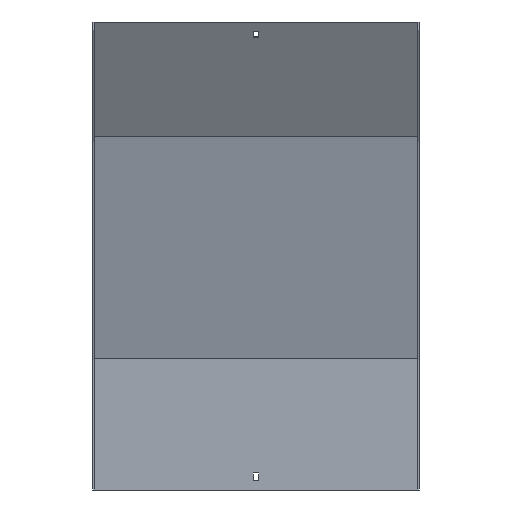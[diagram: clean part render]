
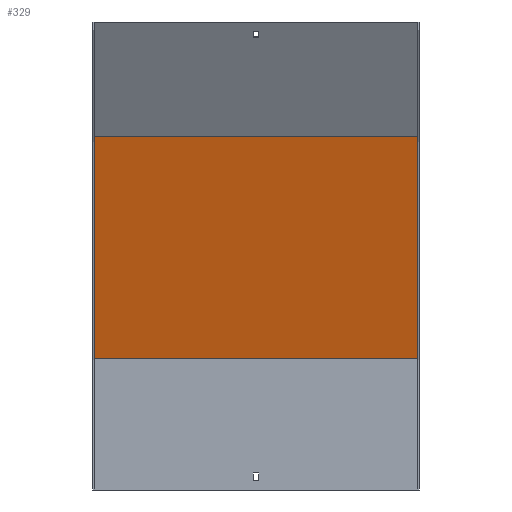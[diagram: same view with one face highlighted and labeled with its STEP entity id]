
A CAD part, front view. The second image highlights one B-rep face of the part: STEP entity #329.
In plain terms, the highlighted planar face has unit normal (0, -0.966, -0.259).
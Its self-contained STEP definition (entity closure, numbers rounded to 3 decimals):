
#17 = LINE ( 'NONE', #806, #482 ) ;
#33 = ORIENTED_EDGE ( 'NONE', *, *, #479, .T. ) ;
#40 = ORIENTED_EDGE ( 'NONE', *, *, #224, .F. ) ;
#97 = VERTEX_POINT ( 'NONE', #344 ) ;
#100 = DIRECTION ( 'NONE',  ( 0., -0.259, 0.966 ) ) ;
#108 = VECTOR ( 'NONE', #436, 1000. ) ;
#111 = LINE ( 'NONE', #169, #108 ) ;
#128 = EDGE_LOOP ( 'NONE', ( #40, #173, #736, #33 ) ) ;
#133 = DIRECTION ( 'NONE',  ( 0., -0.966, -0.259 ) ) ;
#149 = CARTESIAN_POINT ( 'NONE',  ( 200., 18.5, 162.436 ) ) ;
#169 = CARTESIAN_POINT ( 'NONE',  ( 201.5, 18.5, 162.436 ) ) ;
#173 = ORIENTED_EDGE ( 'NONE', *, *, #823, .F. ) ;
#214 = VECTOR ( 'NONE', #100, 1000. ) ;
#224 = EDGE_CURVE ( 'NONE', #644, #97, #827, .T. ) ;
#241 = EDGE_CURVE ( 'NONE', #471, #609, #492, .T. ) ;
#254 = CARTESIAN_POINT ( 'NONE',  ( 200., -54.971, 436.634 ) ) ;
#255 = FACE_OUTER_BOUND ( 'NONE', #128, .T. ) ;
#320 = VECTOR ( 'NONE', #620, 1000. ) ;
#329 = ADVANCED_FACE ( 'NONE', ( #255 ), #657, .T. ) ;
#344 = CARTESIAN_POINT ( 'NONE',  ( -200., -54.971, 436.634 ) ) ;
#362 = CARTESIAN_POINT ( 'NONE',  ( -200., 57.87, 15.506 ) ) ;
#436 = DIRECTION ( 'NONE',  ( -1., 0., 0. ) ) ;
#461 = CARTESIAN_POINT ( 'NONE',  ( 201.5, 17.87, 164.788 ) ) ;
#471 = VERTEX_POINT ( 'NONE', #149 ) ;
#479 = EDGE_CURVE ( 'NONE', #609, #97, #17, .T. ) ;
#482 = VECTOR ( 'NONE', #483, 1000. ) ;
#483 = DIRECTION ( 'NONE',  ( -1., 0., 0. ) ) ;
#492 = LINE ( 'NONE', #696, #214 ) ;
#609 = VERTEX_POINT ( 'NONE', #254 ) ;
#620 = DIRECTION ( 'NONE',  ( 0., -0.259, 0.966 ) ) ;
#644 = VERTEX_POINT ( 'NONE', #737 ) ;
#657 = PLANE ( 'NONE',  #663 ) ;
#663 = AXIS2_PLACEMENT_3D ( 'NONE', #461, #133, #710 ) ;
#696 = CARTESIAN_POINT ( 'NONE',  ( 200., 57.87, 15.506 ) ) ;
#710 = DIRECTION ( 'NONE',  ( 0., 0.259, -0.966 ) ) ;
#736 = ORIENTED_EDGE ( 'NONE', *, *, #241, .T. ) ;
#737 = CARTESIAN_POINT ( 'NONE',  ( -200., 18.5, 162.436 ) ) ;
#806 = CARTESIAN_POINT ( 'NONE',  ( 201.5, -54.971, 436.634 ) ) ;
#823 = EDGE_CURVE ( 'NONE', #471, #644, #111, .T. ) ;
#827 = LINE ( 'NONE', #362, #320 ) ;
